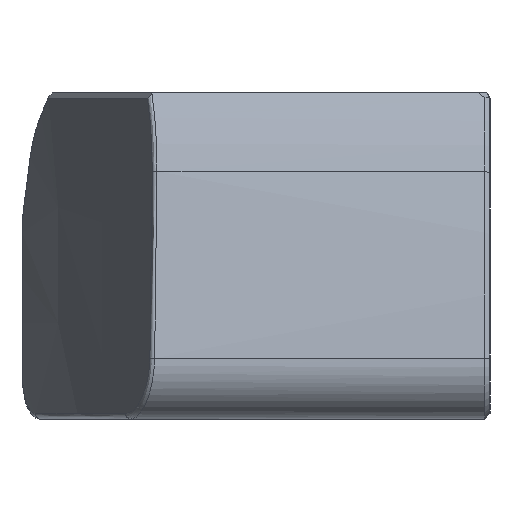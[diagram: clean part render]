
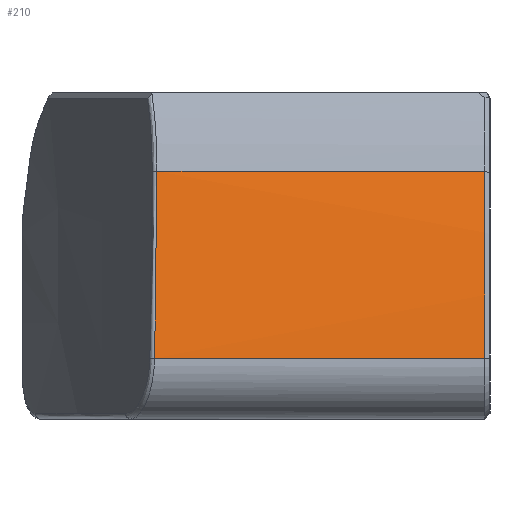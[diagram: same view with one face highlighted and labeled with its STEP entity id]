
A CAD part, left-side view. The second image highlights one B-rep face of the part: STEP entity #210.
In plain terms, the highlighted cylindrical face has radius 88 mm (diameter 176 mm), a partial arc.
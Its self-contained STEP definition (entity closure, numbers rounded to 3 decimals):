
#210 = ADVANCED_FACE ( 'NONE', ( #1856 ), #1859, .T. ) ;
#685 = EDGE_CURVE ( 'NONE', #2090, #2095, #3068, .T. ) ;
#703 = EDGE_CURVE ( 'NONE', #2085, #2090, #5322, .T. ) ;
#718 = EDGE_CURVE ( 'NONE', #2095, #2063, #4609, .T. ) ;
#788 = EDGE_CURVE ( 'NONE', #2063, #2085, #1812, .T. ) ;
#893 = AXIS2_PLACEMENT_3D ( 'NONE', #5152, #5153, #5154 ) ;
#1694 = CARTESIAN_POINT ( 'NONE',  ( -83.085, 20.528, 28.999 ) ) ;
#1706 = CARTESIAN_POINT ( 'NONE',  ( -86.769, 20.702, 14.667 ) ) ;
#1711 = CARTESIAN_POINT ( 'NONE',  ( -86.769, -4.6, 14.667 ) ) ;
#1716 = CARTESIAN_POINT ( 'NONE',  ( -83.085, -4.6, 28.999 ) ) ;
#1812 = B_SPLINE_CURVE_WITH_KNOTS ( 'NONE', 3,
 ( #4370, #4371, #4372, #4373 ),
 .UNSPECIFIED., .F., .F.,
 ( 4, 4 ),
 ( 0., 0.015 ),
 .UNSPECIFIED. ) ;
#1856 = FACE_OUTER_BOUND ( 'NONE', #3152, .T. ) ;
#1859 = CYLINDRICAL_SURFACE ( 'NONE', #1860, 88. ) ;
#1860 = AXIS2_PLACEMENT_3D ( 'NONE', #5089, #5090, #5091 ) ;
#1878 = VECTOR ( 'NONE', #5324, 1000. ) ;
#1895 = VECTOR ( 'NONE', #4611, 1000. ) ;
#2063 = VERTEX_POINT ( 'NONE', #1694 ) ;
#2085 = VERTEX_POINT ( 'NONE', #1706 ) ;
#2090 = VERTEX_POINT ( 'NONE', #1711 ) ;
#2095 = VERTEX_POINT ( 'NONE', #1716 ) ;
#3068 = CIRCLE ( 'NONE', #893, 88. ) ;
#3152 = EDGE_LOOP ( 'NONE', ( #3186, #3182, #3184, #3181 ) ) ;
#3181 = ORIENTED_EDGE ( 'NONE', *, *, #685, .T. ) ;
#3182 = ORIENTED_EDGE ( 'NONE', *, *, #788, .T. ) ;
#3184 = ORIENTED_EDGE ( 'NONE', *, *, #703, .T. ) ;
#3186 = ORIENTED_EDGE ( 'NONE', *, *, #718, .T. ) ;
#4370 = CARTESIAN_POINT ( 'NONE',  ( -83.085, 20.528, 28.999 ) ) ;
#4371 = CARTESIAN_POINT ( 'NONE',  ( -84.716, 20.551, 24.325 ) ) ;
#4372 = CARTESIAN_POINT ( 'NONE',  ( -85.944, 20.609, 19.547 ) ) ;
#4373 = CARTESIAN_POINT ( 'NONE',  ( -86.769, 20.702, 14.667 ) ) ;
#4609 = LINE ( 'NONE', #4610, #1895 ) ;
#4610 = CARTESIAN_POINT ( 'NONE',  ( -83.085, -5., 28.999 ) ) ;
#4611 = DIRECTION ( 'NONE',  ( 0., 1., 0. ) ) ;
#5089 = CARTESIAN_POINT ( 'NONE',  ( 0., -5., 0. ) ) ;
#5090 = DIRECTION ( 'NONE',  ( 0., 1., 0. ) ) ;
#5091 = DIRECTION ( 'NONE',  ( 0., 0., 1. ) ) ;
#5152 = CARTESIAN_POINT ( 'NONE',  ( 0., -4.6, 0. ) ) ;
#5153 = DIRECTION ( 'NONE',  ( 0., 1., 0. ) ) ;
#5154 = DIRECTION ( 'NONE',  ( 0., 0., 1. ) ) ;
#5322 = LINE ( 'NONE', #5323, #1878 ) ;
#5323 = CARTESIAN_POINT ( 'NONE',  ( -86.769, -5., 14.667 ) ) ;
#5324 = DIRECTION ( 'NONE',  ( 0., -1., 0. ) ) ;
